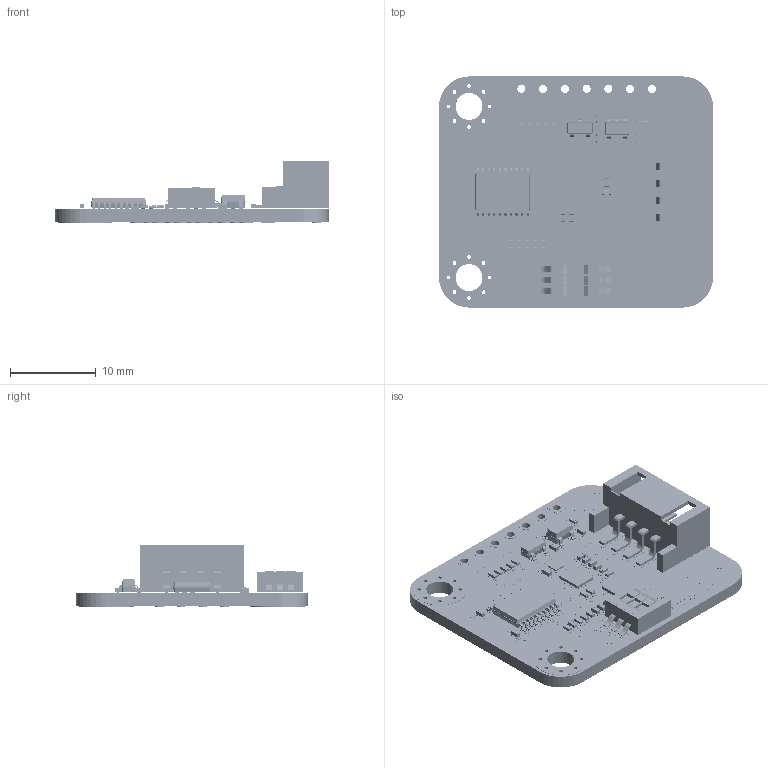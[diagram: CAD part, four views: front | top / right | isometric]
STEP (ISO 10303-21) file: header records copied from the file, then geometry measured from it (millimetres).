
FILE_DESCRIPTION(/* description */ (''),/* implementation_level */ '2;1');
FILE_NAME(/* name */ 'SEN0694',/* time_stamp */ '2026-03-20T13:48:23+08:00',/* author */ (''),/* organization */ (''),/* preprocessor_version */ 'ST-DEVELOPER v19.2',/* originating_system */ 'Rhino 8.0',/* authorisation */ '');
FILE_SCHEMA (('CONFIG_CONTROL_DESIGN'));
Products named in the file (1): Document
Bounding box: 32 x 27 x 7.18 mm (x, y, z)
Volume: 1511.7 mm3; surface area: 4255.4 mm2
Topology: 605 solids, 630 shells, 7549 faces, 19477 edges, 13179 vertices
Faces by surface type: plane 5307, cylinder 2054, bspline 188
Entity records: 225849 total; most frequent: CARTESIAN_POINT 71556, ORIENTED_EDGE 38348, EDGE_CURVE 19477, DIRECTION 15643, B_SPLINE_CURVE_WITH_KNOTS 14906, VERTEX_POINT 13179, AXIS2_PLACEMENT_3D 11479, EDGE_LOOP 8287
